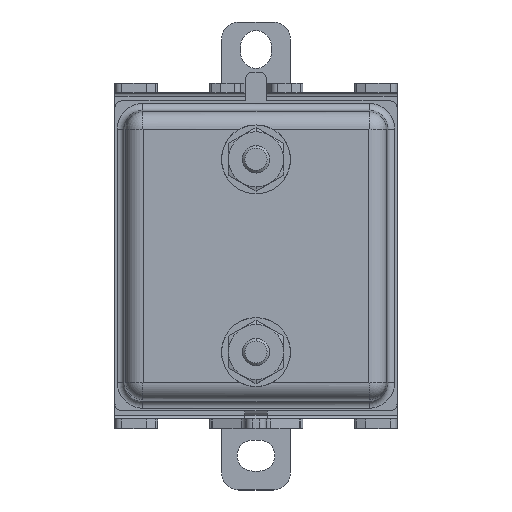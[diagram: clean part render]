
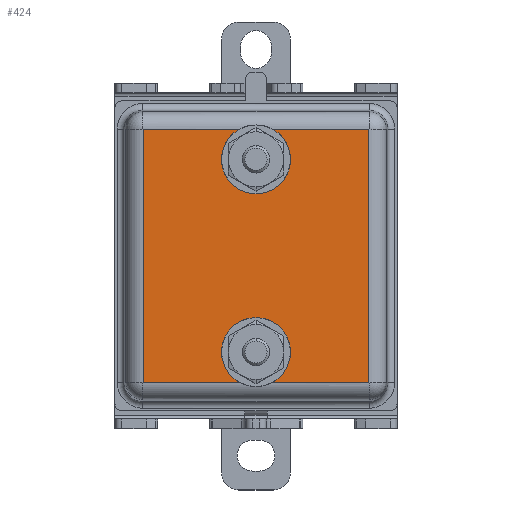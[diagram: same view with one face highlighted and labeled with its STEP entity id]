
A CAD part, top view. The second image highlights one B-rep face of the part: STEP entity #424.
In plain terms, the highlighted planar face has unit normal (0, 0, 1).
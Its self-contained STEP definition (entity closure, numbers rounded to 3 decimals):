
#424 = ADVANCED_FACE( '', ( #1145 ), #1146, .T. );
#1145 = FACE_OUTER_BOUND( '', #1868, .T. );
#1146 = PLANE( '', #1869 );
#1868 = EDGE_LOOP( '', ( #4909, #4910, #4911, #4912, #4913, #4914, #4915, #4916, #4917, #4918 ) );
#1869 = AXIS2_PLACEMENT_3D( '', #4919, #4920, #4921 );
#4909 = ORIENTED_EDGE( '', *, *, #4963, .T. );
#4910 = ORIENTED_EDGE( '', *, *, #5079, .T. );
#4911 = ORIENTED_EDGE( '', *, *, #5932, .F. );
#4912 = ORIENTED_EDGE( '', *, *, #5929, .F. );
#4913 = ORIENTED_EDGE( '', *, *, #5909, .T. );
#4914 = ORIENTED_EDGE( '', *, *, #5087, .T. );
#4915 = ORIENTED_EDGE( '', *, *, #4944, .T. );
#4916 = ORIENTED_EDGE( '', *, *, #5908, .T. );
#4917 = ORIENTED_EDGE( '', *, *, #5917, .T. );
#4918 = ORIENTED_EDGE( '', *, *, #5933, .F. );
#4919 = CARTESIAN_POINT( '', ( 0., 0., 9. ) );
#4920 = DIRECTION( '', ( 0., 0., 1. ) );
#4921 = DIRECTION( '', ( 1., 0., 0. ) );
#4944 = EDGE_CURVE( '', #5946, #5952, #5954, .T. );
#4963 = EDGE_CURVE( '', #5989, #5987, #5990, .T. );
#5079 = EDGE_CURVE( '', #5987, #6173, #6175, .T. );
#5087 = EDGE_CURVE( '', #6183, #5946, #6184, .T. );
#5908 = EDGE_CURVE( '', #5952, #7547, #7549, .T. );
#5909 = EDGE_CURVE( '', #7528, #6183, #7550, .T. );
#5917 = EDGE_CURVE( '', #7547, #7560, #7562, .T. );
#5929 = EDGE_CURVE( '', #7528, #7568, #7580, .T. );
#5932 = EDGE_CURVE( '', #7568, #6173, #7583, .T. );
#5933 = EDGE_CURVE( '', #5989, #7560, #7584, .T. );
#5946 = VERTEX_POINT( '', #7599 );
#5952 = VERTEX_POINT( '', #7607 );
#5954 = CIRCLE( '', #7609, 5. );
#5987 = VERTEX_POINT( '', #7651 );
#5989 = VERTEX_POINT( '', #7654 );
#5990 = CIRCLE( '', #7655, 5. );
#6173 = VERTEX_POINT( '', #8106 );
#6175 = CIRCLE( '', #8108, 5. );
#6183 = VERTEX_POINT( '', #8117 );
#6184 = CIRCLE( '', #8118, 5. );
#7528 = VERTEX_POINT( '', #10120 );
#7547 = VERTEX_POINT( '', #10217 );
#7549 = LINE( '', #10244, #10245 );
#7550 = LINE( '', #10246, #10247 );
#7560 = VERTEX_POINT( '', #10259 );
#7562 = LINE( '', #10261, #10262 );
#7568 = VERTEX_POINT( '', #10270 );
#7580 = LINE( '', #10328, #10329 );
#7583 = LINE( '', #10334, #10335 );
#7584 = LINE( '', #10336, #10337 );
#7599 = CARTESIAN_POINT( '', ( 20.5, 31.5, 9. ) );
#7607 = CARTESIAN_POINT( '', ( 18.144, 40.91, 9. ) );
#7609 = AXIS2_PLACEMENT_3D( '', #10430, #10431, #10432 );
#7651 = CARTESIAN_POINT( '', ( 20.5, 13.5, 9. ) );
#7654 = CARTESIAN_POINT( '', ( 18.144, 4.09, 9. ) );
#7655 = AXIS2_PLACEMENT_3D( '', #10467, #10468, #10469 );
#8106 = CARTESIAN_POINT( '', ( 22.856, 4.09, 9. ) );
#8108 = AXIS2_PLACEMENT_3D( '', #10639, #10640, #10641 );
#8117 = CARTESIAN_POINT( '', ( 22.856, 40.91, 9. ) );
#8118 = AXIS2_PLACEMENT_3D( '', #10661, #10662, #10663 );
#10120 = CARTESIAN_POINT( '', ( 36.91, 40.91, 9. ) );
#10217 = CARTESIAN_POINT( '', ( 4.09, 40.91, 9. ) );
#10244 = CARTESIAN_POINT( '', ( 20.5, 40.91, 9. ) );
#10245 = VECTOR( '', #11873, 1. );
#10246 = CARTESIAN_POINT( '', ( 20.5, 40.91, 9. ) );
#10247 = VECTOR( '', #11874, 1. );
#10259 = CARTESIAN_POINT( '', ( 4.09, 4.09, 9. ) );
#10261 = CARTESIAN_POINT( '', ( 4.09, 22.5, 9. ) );
#10262 = VECTOR( '', #11892, 1. );
#10270 = CARTESIAN_POINT( '', ( 36.91, 4.09, 9. ) );
#10328 = CARTESIAN_POINT( '', ( 36.91, 22.5, 9. ) );
#10329 = VECTOR( '', #11911, 1. );
#10334 = CARTESIAN_POINT( '', ( 20.5, 4.09, 9. ) );
#10335 = VECTOR( '', #11914, 1. );
#10336 = CARTESIAN_POINT( '', ( 20.5, 4.09, 9. ) );
#10337 = VECTOR( '', #11915, 1. );
#10430 = CARTESIAN_POINT( '', ( 20.5, 36.5, 9. ) );
#10431 = DIRECTION( '', ( 0., 0., -1. ) );
#10432 = DIRECTION( '', ( 0., -1., 0. ) );
#10467 = CARTESIAN_POINT( '', ( 20.5, 8.5, 9. ) );
#10468 = DIRECTION( '', ( 0., 0., -1. ) );
#10469 = DIRECTION( '', ( 0., -1., 0. ) );
#10639 = CARTESIAN_POINT( '', ( 20.5, 8.5, 9. ) );
#10640 = DIRECTION( '', ( 0., 0., -1. ) );
#10641 = DIRECTION( '', ( 0., -1., 0. ) );
#10661 = CARTESIAN_POINT( '', ( 20.5, 36.5, 9. ) );
#10662 = DIRECTION( '', ( 0., 0., -1. ) );
#10663 = DIRECTION( '', ( 0., -1., 0. ) );
#11873 = DIRECTION( '', ( -1., 0., 0. ) );
#11874 = DIRECTION( '', ( -1., 0., 0. ) );
#11892 = DIRECTION( '', ( 0., -1., 0. ) );
#11911 = DIRECTION( '', ( 0., -1., 0. ) );
#11914 = DIRECTION( '', ( -1., 0., 0. ) );
#11915 = DIRECTION( '', ( -1., 0., 0. ) );
